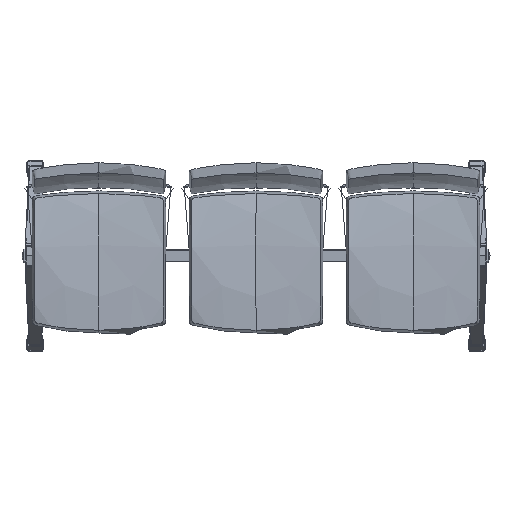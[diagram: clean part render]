
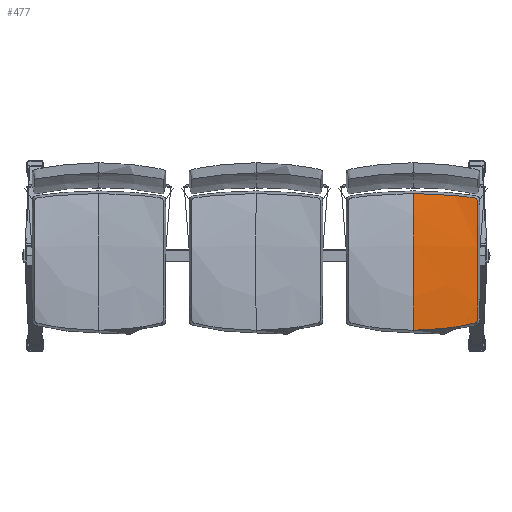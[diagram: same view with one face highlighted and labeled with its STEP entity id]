
A CAD part, top view. The second image highlights one B-rep face of the part: STEP entity #477.
In plain terms, the highlighted free-form (B-spline) face has degree [3, 3] with [6, 5] control points.
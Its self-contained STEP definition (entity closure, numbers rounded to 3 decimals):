
#477=ADVANCED_FACE('',(#945),#5827,.T.);
#945=FACE_OUTER_BOUND('',#1413,.T.);
#1413=EDGE_LOOP('',(#3046,#3047));
#3046=ORIENTED_EDGE('',*,*,#4423,.F.);
#3047=ORIENTED_EDGE('',*,*,#4426,.F.);
#4423=EDGE_CURVE('',#5432,#5431,#6862,.T.);
#4426=EDGE_CURVE('',#5431,#5432,#6865,.T.);
#5431=VERTEX_POINT('',#12466);
#5432=VERTEX_POINT('',#12467);
#5827=B_SPLINE_SURFACE_WITH_KNOTS('',3,3,((#11846,#11847,#11848,#11849,
#11850),(#11851,#11852,#11853,#11854,#11855),(#11856,#11857,#11858,#11859,
#11860),(#11861,#11862,#11863,#11864,#11865),(#11866,#11867,#11868,#11869,
#11870),(#11871,#11872,#11873,#11874,#11875)),.UNSPECIFIED.,.F.,.F.,.F.,
(4,1,1,4),(4,1,4),(0.,150.405,300.811,451.216),
(0.,113.023,226.045),.UNSPECIFIED.);
#6862=B_SPLINE_CURVE_WITH_KNOTS('',3,(#12474,#12475,#12476,#12477,#12478,
#12479),.UNSPECIFIED.,.F.,.F.,(4,1,1,4),(14.636,150.405,
300.811,436.736),.UNSPECIFIED.);
#6865=B_SPLINE_CURVE_WITH_KNOTS('',3,(#12550,#12551,#12552,#12553,#12554,
#12555,#12556,#12557,#12558,#12559,#12560,#12561,#12562,#12563,#12564,#12565,
#12566,#12567,#12568,#12569,#12570,#12571,#12572,#12573,#12574,#12575,#12576,
#12577,#12578,#12579,#12580,#12581,#12582,#12583,#12584,#12585,#12586,#12587,
#12588,#12589,#12590,#12591,#12592,#12593,#12594,#12595,#12596,#12597,#12598,
#12599,#12600,#12601,#12602,#12603,#12604,#12605,#12606,#12607,#12608,#12609,
#12610,#12611,#12612,#12613,#12614,#12615),.UNSPECIFIED.,.F.,.F.,(4,2,2,
2,1,1,1,2,2,2,2,2,1,1,1,2,2,2,2,2,2,2,2,2,1,1,1,2,2,2,2,2,1,1,1,2,2,2,4),
(-834.547,-732.977,-707.585,-682.192,
-634.077,-631.407,-628.738,-626.069,
-623.399,-620.73,-618.061,-615.391,
-612.722,-610.053,-607.384,-561.831,
-513.608,-489.497,-465.386,-417.164,
-368.942,-344.831,-320.72,-272.498,
-226.987,-224.275,-221.564,-218.853,
-216.141,-213.43,-210.718,-208.007,
-205.295,-202.584,-199.872,-151.938,
-126.615,-101.292,0.),.UNSPECIFIED.);
#11846=CARTESIAN_POINT('',(732.5,-227.5,452.92));
#11847=CARTESIAN_POINT('',(696.336,-237.419,461.436));
#11848=CARTESIAN_POINT('',(622.582,-252.432,466.217));
#11849=CARTESIAN_POINT('',(547.527,-257.459,466.479));
#11850=CARTESIAN_POINT('',(510.,-257.459,466.479));
#11851=CARTESIAN_POINT('',(732.5,-180.234,461.665));
#11852=CARTESIAN_POINT('',(696.401,-188.252,471.09));
#11853=CARTESIAN_POINT('',(622.677,-200.383,474.207));
#11854=CARTESIAN_POINT('',(547.559,-204.444,473.909));
#11855=CARTESIAN_POINT('',(510.,-204.444,473.909));
#11856=CARTESIAN_POINT('',(732.5,-85.677,465.522));
#11857=CARTESIAN_POINT('',(696.531,-89.935,472.649));
#11858=CARTESIAN_POINT('',(622.867,-96.362,468.263));
#11859=CARTESIAN_POINT('',(547.622,-98.511,466.788));
#11860=CARTESIAN_POINT('',(510.,-98.511,466.788));
#11861=CARTESIAN_POINT('',(732.5,56.117,460.406));
#11862=CARTESIAN_POINT('',(696.726,57.366,463.741));
#11863=CARTESIAN_POINT('',(623.151,59.293,453.584));
#11864=CARTESIAN_POINT('',(547.717,59.944,450.172));
#11865=CARTESIAN_POINT('',(510.,59.944,450.172));
#11866=CARTESIAN_POINT('',(732.5,150.418,449.736));
#11867=CARTESIAN_POINT('',(696.856,155.229,450.319));
#11868=CARTESIAN_POINT('',(623.341,162.56,439.981));
#11869=CARTESIAN_POINT('',(547.78,165.024,435.165));
#11870=CARTESIAN_POINT('',(510.,165.024,435.165));
#11871=CARTESIAN_POINT('',(732.5,197.5,437.588));
#11872=CARTESIAN_POINT('',(696.92,204.063,434.741));
#11873=CARTESIAN_POINT('',(623.436,214.054,422.229));
#11874=CARTESIAN_POINT('',(547.812,217.409,416.683));
#11875=CARTESIAN_POINT('',(510.,217.409,416.683));
#12466=CARTESIAN_POINT('',(510.,202.275,421.725));
#12467=CARTESIAN_POINT('',(510.,-241.984,468.345));
#12474=CARTESIAN_POINT('',(510.,-241.984,468.345));
#12475=CARTESIAN_POINT('',(510.,-194.136,473.206));
#12476=CARTESIAN_POINT('',(510.,-93.372,466.249));
#12477=CARTESIAN_POINT('',(510.,54.859,450.705));
#12478=CARTESIAN_POINT('',(510.,154.906,436.601));
#12479=CARTESIAN_POINT('',(510.,202.275,421.725));
#12550=CARTESIAN_POINT('',(510.,202.275,421.725));
#12551=CARTESIAN_POINT('',(543.428,202.274,421.725));
#12552=CARTESIAN_POINT('',(576.833,201.067,423.808));
#12553=CARTESIAN_POINT('',(618.273,198.045,428.155));
#12554=CARTESIAN_POINT('',(626.546,197.365,429.119));
#12555=CARTESIAN_POINT('',(643.064,195.851,431.169));
#12556=CARTESIAN_POINT('',(651.303,195.018,432.245));
#12557=CARTESIAN_POINT('',(675.179,192.377,435.343));
#12558=CARTESIAN_POINT('',(691.515,190.261,437.451));
#12559=CARTESIAN_POINT('',(709.038,187.674,439.137));
#12560=CARTESIAN_POINT('',(710.949,187.297,439.337));
#12561=CARTESIAN_POINT('',(712.303,186.803,439.534));
#12562=CARTESIAN_POINT('',(713.554,186.216,439.745));
#12563=CARTESIAN_POINT('',(714.158,185.865,439.863));
#12564=CARTESIAN_POINT('',(715.273,185.048,440.12));
#12565=CARTESIAN_POINT('',(715.785,184.581,440.26));
#12566=CARTESIAN_POINT('',(716.691,183.546,440.555));
#12567=CARTESIAN_POINT('',(717.084,182.978,440.71));
#12568=CARTESIAN_POINT('',(717.737,181.775,441.029));
#12569=CARTESIAN_POINT('',(717.999,181.137,441.193));
#12570=CARTESIAN_POINT('',(718.399,179.838,441.519));
#12571=CARTESIAN_POINT('',(718.689,178.451,441.857));
#12572=CARTESIAN_POINT('',(718.776,176.557,442.302));
#12573=CARTESIAN_POINT('',(718.742,159.822,446.126));
#12574=CARTESIAN_POINT('',(718.749,144.125,449.006));
#12575=CARTESIAN_POINT('',(718.73,113.211,453.722));
#12576=CARTESIAN_POINT('',(718.724,97.267,455.629));
#12577=CARTESIAN_POINT('',(718.712,73.289,458.027));
#12578=CARTESIAN_POINT('',(718.709,65.291,458.748));
#12579=CARTESIAN_POINT('',(718.701,49.285,460.088));
#12580=CARTESIAN_POINT('',(718.697,41.276,460.707));
#12581=CARTESIAN_POINT('',(718.686,17.243,462.414));
#12582=CARTESIAN_POINT('',(718.678,1.206,463.35));
#12583=CARTESIAN_POINT('',(718.663,-30.887,464.815));
#12584=CARTESIAN_POINT('',(718.656,-46.942,465.344));
#12585=CARTESIAN_POINT('',(718.644,-71.031,465.833));
#12586=CARTESIAN_POINT('',(718.641,-79.063,465.945));
#12587=CARTESIAN_POINT('',(718.633,-95.124,466.068));
#12588=CARTESIAN_POINT('',(718.629,-103.157,466.078));
#12589=CARTESIAN_POINT('',(718.618,-127.252,465.877));
#12590=CARTESIAN_POINT('',(718.609,-143.304,465.433));
#12591=CARTESIAN_POINT('',(718.599,-174.505,463.545));
#12592=CARTESIAN_POINT('',(718.578,-190.395,462.101));
#12593=CARTESIAN_POINT('',(718.596,-207.426,459.773));
#12594=CARTESIAN_POINT('',(718.506,-209.362,459.519));
#12595=CARTESIAN_POINT('',(718.218,-210.795,459.378));
#12596=CARTESIAN_POINT('',(717.826,-212.142,459.27));
#12597=CARTESIAN_POINT('',(717.57,-212.807,459.23));
#12598=CARTESIAN_POINT('',(716.935,-214.072,459.185));
#12599=CARTESIAN_POINT('',(716.555,-214.674,459.18));
#12600=CARTESIAN_POINT('',(715.68,-215.787,459.206));
#12601=CARTESIAN_POINT('',(715.185,-216.298,459.238));
#12602=CARTESIAN_POINT('',(714.107,-217.21,459.334));
#12603=CARTESIAN_POINT('',(713.522,-217.613,459.4));
#12604=CARTESIAN_POINT('',(712.306,-218.306,459.554));
#12605=CARTESIAN_POINT('',(710.982,-218.912,459.74));
#12606=CARTESIAN_POINT('',(709.118,-219.435,460.046));
#12607=CARTESIAN_POINT('',(691.911,-223.338,462.888));
#12608=CARTESIAN_POINT('',(675.65,-226.584,464.503));
#12609=CARTESIAN_POINT('',(651.78,-230.666,466.076));
#12610=CARTESIAN_POINT('',(643.518,-231.96,466.471));
#12611=CARTESIAN_POINT('',(626.939,-234.316,467.095));
#12612=CARTESIAN_POINT('',(618.632,-235.377,467.33));
#12613=CARTESIAN_POINT('',(577.022,-240.093,468.307));
#12614=CARTESIAN_POINT('',(543.509,-241.984,468.344));
#12615=CARTESIAN_POINT('',(510.,-241.984,468.345));
